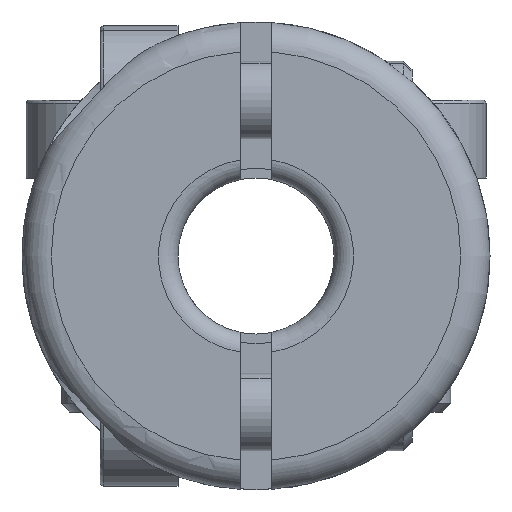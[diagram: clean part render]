
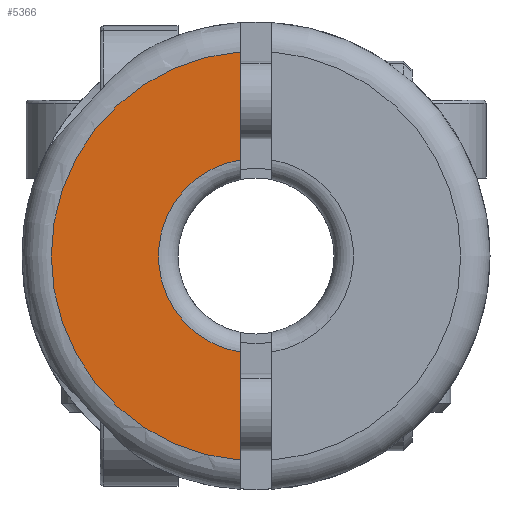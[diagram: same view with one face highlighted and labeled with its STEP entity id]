
A CAD part, left-side view. The second image highlights one B-rep face of the part: STEP entity #5366.
In plain terms, the highlighted planar face has unit normal (-1, 0, 0).
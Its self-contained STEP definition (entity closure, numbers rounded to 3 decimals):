
#205 = CARTESIAN_POINT ( 'NONE',  ( -9.25, 0.4, -5.235 ) ) ;
#269 = DIRECTION ( 'NONE',  ( 1., 0., 0. ) ) ;
#476 = PLANE ( 'NONE',  #4609 ) ;
#587 = CARTESIAN_POINT ( 'NONE',  ( -9.25, 0.4, 5.987 ) ) ;
#935 = CARTESIAN_POINT ( 'NONE',  ( -9.25, 0.4, 5.987 ) ) ;
#968 = DIRECTION ( 'NONE',  ( 1., 0., 0. ) ) ;
#1412 = AXIS2_PLACEMENT_3D ( 'NONE', #3293, #269, #3791 ) ;
#1634 = DIRECTION ( 'NONE',  ( 0., 0., 1. ) ) ;
#1748 = EDGE_CURVE ( 'NONE', #3294, #5779, #2784, .T. ) ;
#1801 = LINE ( 'NONE', #935, #1809 ) ;
#1809 = VECTOR ( 'NONE', #2441, 1000. ) ;
#1814 = FACE_OUTER_BOUND ( 'NONE', #2190, .T. ) ;
#1960 = CARTESIAN_POINT ( 'NONE',  ( -9.25, 0., 0. ) ) ;
#2093 = ORIENTED_EDGE ( 'NONE', *, *, #3927, .T. ) ;
#2100 = VERTEX_POINT ( 'NONE', #2931 ) ;
#2190 = EDGE_LOOP ( 'NONE', ( #2093, #4161, #5056, #4782 ) ) ;
#2441 = DIRECTION ( 'NONE',  ( 0., 0., 1. ) ) ;
#2481 = CARTESIAN_POINT ( 'NONE',  ( -9.25, 0., 0. ) ) ;
#2713 = VECTOR ( 'NONE', #1634, 1000. ) ;
#2784 = LINE ( 'NONE', #587, #2713 ) ;
#2884 = VERTEX_POINT ( 'NONE', #6345 ) ;
#2931 = CARTESIAN_POINT ( 'NONE',  ( -9.25, 0.4, 5.235 ) ) ;
#2987 = DIRECTION ( 'NONE',  ( 0., 0., -1. ) ) ;
#3039 = AXIS2_PLACEMENT_3D ( 'NONE', #2481, #5994, #2987 ) ;
#3293 = CARTESIAN_POINT ( 'NONE',  ( -9.25, 0., 0. ) ) ;
#3294 = VERTEX_POINT ( 'NONE', #205 ) ;
#3402 = CIRCLE ( 'NONE', #1412, 2.5 ) ;
#3791 = DIRECTION ( 'NONE',  ( 0., 0., -1. ) ) ;
#3927 = EDGE_CURVE ( 'NONE', #2884, #2100, #1801, .T. ) ;
#4161 = ORIENTED_EDGE ( 'NONE', *, *, #5922, .T. ) ;
#4375 = CARTESIAN_POINT ( 'NONE',  ( -9.25, 0.4, -2.468 ) ) ;
#4512 = DIRECTION ( 'NONE',  ( 0., 0., -1. ) ) ;
#4609 = AXIS2_PLACEMENT_3D ( 'NONE', #1960, #968, #4512 ) ;
#4782 = ORIENTED_EDGE ( 'NONE', *, *, #6418, .T. ) ;
#5056 = ORIENTED_EDGE ( 'NONE', *, *, #1748, .T. ) ;
#5366 = ADVANCED_FACE ( 'NONE', ( #1814 ), #476, .F. ) ;
#5779 = VERTEX_POINT ( 'NONE', #4375 ) ;
#5922 = EDGE_CURVE ( 'NONE', #2100, #3294, #5990, .T. ) ;
#5990 = CIRCLE ( 'NONE', #3039, 5.25 ) ;
#5994 = DIRECTION ( 'NONE',  ( -1., 0., 0. ) ) ;
#6345 = CARTESIAN_POINT ( 'NONE',  ( -9.25, 0.4, 2.468 ) ) ;
#6418 = EDGE_CURVE ( 'NONE', #5779, #2884, #3402, .T. ) ;
